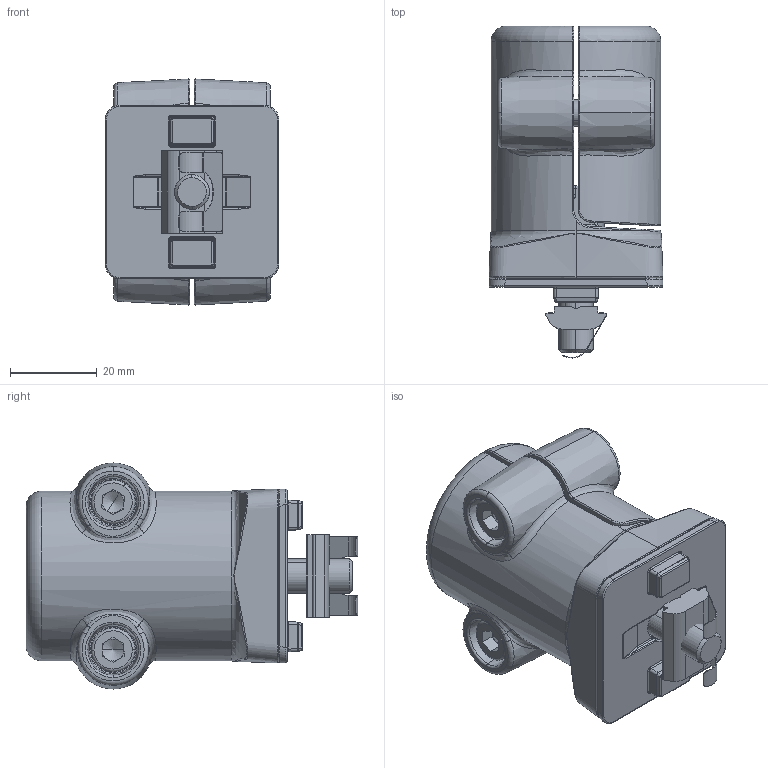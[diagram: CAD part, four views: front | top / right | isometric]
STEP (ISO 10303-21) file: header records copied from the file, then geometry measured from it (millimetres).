
FILE_DESCRIPTION (( 'STEP AP214' ), '1' );
FILE_NAME ('061FA40S01.STEP', '2020-02-12T07:28:13', ( '' ), ( '' ), 'SwSTEP 2.0', 'SolidWorks 2019', '' );
FILE_SCHEMA (( 'AUTOMOTIVE_DESIGN' ));
Length unit declared in the file: millimetre
Products named in the file (14): 340me280_340me280; 096164_096168ESD; 061FG4_N__R0_-A-TAB_061FG40N10R03; 061FA40R0_-A-TAB_061FA40R01; 061FA___N__-A-TAB_061FA40N10 - 148826; 09616_F-A-TAB_096168F-102614; SCHNORR-Sicherungsscheibe VS 8 FST_093150 - zusammengedr…kt; 061FA40S01; cap screw ISO 4762 M6x28_ISO 4762 M6; 061FA40R0_-A-TAB_061FA40R02; cap screw ISO 4762 M8x30_ISO 4762 M8 ; Hexagon nut ISO 4032 M6_4DIN4032M6M; cap screw ISO 4762 M8x25_ISO 4762 M8 ; 061FA40_061FG40
Assembly tree (15 placements, depth 4):
  061FA40S01
    061FA40_061FG40
      061FA40R0_-A-TAB_061FA40R01
      061FA40R0_-A-TAB_061FA40R02
      Hexagon nut ISO 4032 M6_4DIN4032M6M  x2
      cap screw ISO 4762 M6x28_ISO 4762 M6  x2
    061FA___N__-A-TAB_061FA40N10 - 148826
      061FG4_N__R0_-A-TAB_061FG40N10R03
      09616_F-A-TAB_096168F-102614
        096164_096168ESD
        340me280_340me280
      cap screw ISO 4762 M8x25_ISO 4762 M8 
      cap screw ISO 4762 M8x30_ISO 4762 M8 
      SCHNORR-Sicherungsscheibe VS 8 FST_093150 - zusammengedr…kt
Bounding box: 40 x 76.29 x 51.97 mm (x, y, z)
Volume: 53993.4 mm3; surface area: 32623.9 mm2
Topology: 12 solids, 12 shells, 1988 faces, 4702 edges, 2687 vertices
Faces by surface type: bspline 767, cylinder 480, plane 335, torus 167, cone 145, sphere 94
Entity records: 72717 total; most frequent: CARTESIAN_POINT 34017, ORIENTED_EDGE 9032, DIRECTION 6847, EDGE_CURVE 4516, AXIS2_PLACEMENT_3D 2833, VERTEX_POINT 2620, EDGE_LOOP 1968, FACE_OUTER_BOUND 1933
